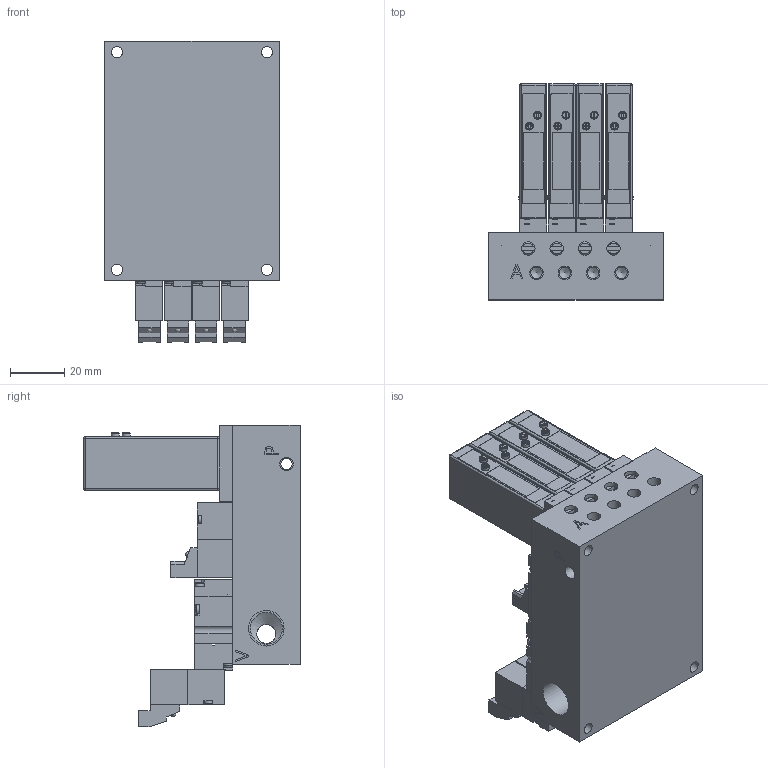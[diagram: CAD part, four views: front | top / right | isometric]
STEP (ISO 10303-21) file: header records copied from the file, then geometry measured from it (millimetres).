
FILE_DESCRIPTION (( 'STEP AP214' ), '1' );
FILE_NAME ('~NVP-10V-4M.STEP', '2018-04-10T04:27:04', ( 'Casper' ), ( '' ), 'SwSTEP 2.0', 'SolidWorks 2015', '' );
FILE_SCHEMA (( 'AUTOMOTIVE_DESIGN' ));
Length unit declared in the file: millimetre
Products named in the file (20): M2x10螺絲; NVS-3500-J01_NVS3500引導閥(01)_去鋼珠; NVP-3300M-C01_NVP-3300M底座式本體(X0)_去鋼珠; BM-3300M-Y01_NVP-10V底座(X2)_去鋼珠; NVP-10V-Q01_NVP-10V調整螺絲(00); ~NVP-10V-4M; M2x15螺絲; KP90組; M2x0.4x5內六角螺栓; KP90(X1); NV-10V-D05_NV-10V轉接塊(00); 10mm線圈FIM P371-1 24VDC; NVP-3321M-D2-1L_去鋼珠; NV-20VB端蓋組; M2x6螺絲; NV-20VB-L01_NV-20VB端蓋彈簧(00); O環(9x11x1); NV-20VB-K01_NV-20VB端蓋(00); 10mm線圈(L); 10mm引導閥模組_去鋼珠
Assembly tree (43 placements, depth 4):
  ~NVP-10V-4M
    BM-3300M-Y01_NVP-10V底座(X2)_去鋼珠
    NVP-3321M-D2-1L_去鋼珠  x4
      NVP-3300M-C01_NVP-3300M底座式本體(X0)_去鋼珠
      10mm引導閥模組_去鋼珠
        NVS-3500-J01_NVS3500引導閥(01)_去鋼珠
        M2x10螺絲  x2
      10mm線圈(L)
      NV-20VB端蓋組
        NV-20VB-K01_NV-20VB端蓋(00)
        O環(9x11x1)
        NV-20VB-L01_NV-20VB端蓋彈簧(00)
        M2x6螺絲  x2
    10mm線圈FIM P371-1 24VDC  x4
    KP90組  x4
      NV-10V-D05_NV-10V轉接塊(00)
      KP90(X1)
      M2x0.4x5內六角螺栓
    M2x15螺絲  x8
    NVP-10V-Q01_NVP-10V調整螺絲(00)  x4
Bounding box: 64.5 x 80 x 111.5 mm (x, y, z)
Volume: 227772 mm3; surface area: 84007.1 mm2
Topology: 137 solids, 137 shells, 3218 faces, 7751 edges, 5043 vertices
Faces by surface type: plane 2278, cylinder 576, cone 190, torus 100, bspline 66, sphere 8
Full cylindrical faces by diameter (mm): 1 x28, 1.25 x16, 1.6 x64, 1.7 x16, 2 x72, 2.1 x16, 2.2 x24, 2.3 x8, 2.5 x12, 2.9 x8, 3 x20, 3.1 x4, 3.4 x32, 3.8 x28, 3.9 x16, 4.2 x13, 4.6 x4, 5 x14, 7 x1, 7.2 x4, 8.4 x4, 11.8 x2, 13.157 x2
Entity records: 26775 total; most frequent: CARTESIAN_POINT 6032, DIRECTION 3776, ORIENTED_EDGE 3408, EDGE_CURVE 1704, AXIS2_PLACEMENT_3D 1309, VERTEX_POINT 1231, EDGE_LOOP 1203, LINE 1158
